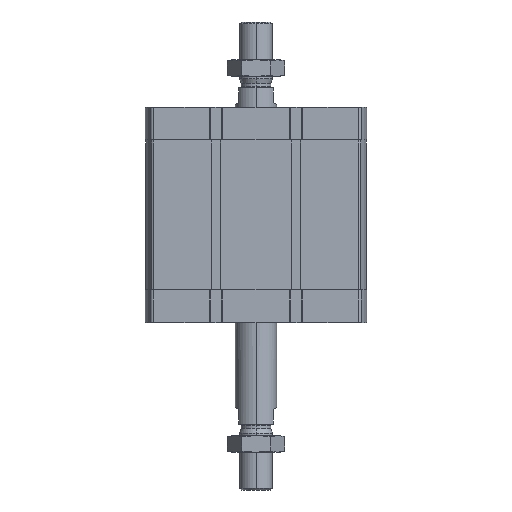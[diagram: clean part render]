
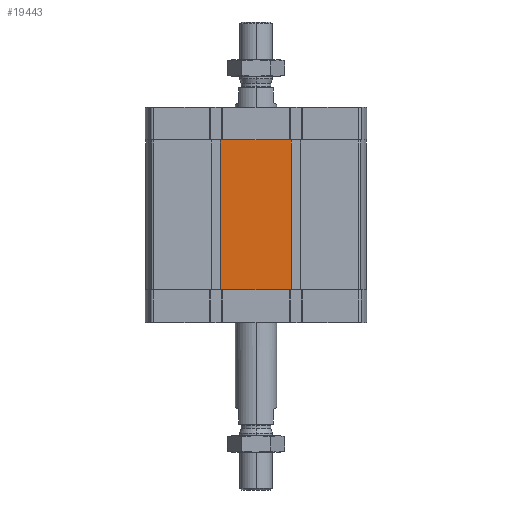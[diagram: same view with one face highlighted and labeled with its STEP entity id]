
A CAD part, left-side view. The second image highlights one B-rep face of the part: STEP entity #19443.
In plain terms, the highlighted planar face has unit normal (-1, 0, 0).
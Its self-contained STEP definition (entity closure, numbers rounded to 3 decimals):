
#475 = LINE ( 'NONE', #4931, #2580 ) ;
#1255 = EDGE_CURVE ( 'NONE', #11053, #18891, #9335, .T. ) ;
#1530 = FACE_OUTER_BOUND ( 'NONE', #14985, .T. ) ;
#1689 = CARTESIAN_POINT ( 'NONE',  ( -67., -20.687, -111. ) ) ;
#2101 = CARTESIAN_POINT ( 'NONE',  ( -67., 67., -20. ) ) ;
#2276 = VERTEX_POINT ( 'NONE', #5828 ) ;
#2580 = VECTOR ( 'NONE', #17039, 1000. ) ;
#2638 = EDGE_CURVE ( 'NONE', #15132, #2276, #6809, .T. ) ;
#3329 = VECTOR ( 'NONE', #16542, 1000. ) ;
#3726 = CARTESIAN_POINT ( 'NONE',  ( -67., -21.3, -111. ) ) ;
#3898 = CARTESIAN_POINT ( 'NONE',  ( -67., 67., -20. ) ) ;
#4482 = EDGE_CURVE ( 'NONE', #12174, #11053, #15923, .T. ) ;
#4587 = DIRECTION ( 'NONE',  ( 0., 0., 1. ) ) ;
#4931 = CARTESIAN_POINT ( 'NONE',  ( -67., 67., -111. ) ) ;
#4980 = DIRECTION ( 'NONE',  ( 0., -1., 0. ) ) ;
#5127 = CARTESIAN_POINT ( 'NONE',  ( -67., 21.3, -20. ) ) ;
#5157 = EDGE_CURVE ( 'NONE', #18891, #6704, #18133, .T. ) ;
#5431 = DIRECTION ( 'NONE',  ( 0., -1., 0. ) ) ;
#5828 = CARTESIAN_POINT ( 'NONE',  ( -67., -21.3, -20. ) ) ;
#6089 = CARTESIAN_POINT ( 'NONE',  ( -67., 67., -111. ) ) ;
#6608 = VERTEX_POINT ( 'NONE', #14354 ) ;
#6704 = VERTEX_POINT ( 'NONE', #17427 ) ;
#6716 = CARTESIAN_POINT ( 'NONE',  ( -67., -21.3, -111. ) ) ;
#6809 = LINE ( 'NONE', #3726, #11897 ) ;
#6833 = CARTESIAN_POINT ( 'NONE',  ( -67., 21.3, -111. ) ) ;
#7312 = ORIENTED_EDGE ( 'NONE', *, *, #2638, .T. ) ;
#7331 = EDGE_CURVE ( 'NONE', #6704, #2276, #17279, .T. ) ;
#7414 = CARTESIAN_POINT ( 'NONE',  ( -67., 20.687, -20. ) ) ;
#7583 = PLANE ( 'NONE',  #17049 ) ;
#8231 = CARTESIAN_POINT ( 'NONE',  ( -67., 21.3, -111. ) ) ;
#8861 = CARTESIAN_POINT ( 'NONE',  ( -67., 67., -111. ) ) ;
#9335 = LINE ( 'NONE', #2101, #15867 ) ;
#9754 = DIRECTION ( 'NONE',  ( 0., -1., 0. ) ) ;
#10521 = ORIENTED_EDGE ( 'NONE', *, *, #1255, .F. ) ;
#10666 = ORIENTED_EDGE ( 'NONE', *, *, #18109, .T. ) ;
#11053 = VERTEX_POINT ( 'NONE', #5127 ) ;
#11315 = VECTOR ( 'NONE', #11822, 1000. ) ;
#11608 = EDGE_CURVE ( 'NONE', #6608, #12037, #14448, .T. ) ;
#11636 = LINE ( 'NONE', #8861, #11315 ) ;
#11822 = DIRECTION ( 'NONE',  ( 0., -1., 0. ) ) ;
#11897 = VECTOR ( 'NONE', #12535, 1000. ) ;
#12037 = VERTEX_POINT ( 'NONE', #1689 ) ;
#12174 = VERTEX_POINT ( 'NONE', #8231 ) ;
#12535 = DIRECTION ( 'NONE',  ( 0., 0., 1. ) ) ;
#12575 = VECTOR ( 'NONE', #9754, 1000. ) ;
#12580 = EDGE_CURVE ( 'NONE', #12037, #15132, #475, .T. ) ;
#12965 = CARTESIAN_POINT ( 'NONE',  ( -67., 21.3, -111. ) ) ;
#13828 = ORIENTED_EDGE ( 'NONE', *, *, #7331, .F. ) ;
#14341 = DIRECTION ( 'NONE',  ( 0., 0., 1. ) ) ;
#14354 = CARTESIAN_POINT ( 'NONE',  ( -67., 20.687, -111. ) ) ;
#14448 = LINE ( 'NONE', #12965, #15629 ) ;
#14985 = EDGE_LOOP ( 'NONE', ( #15648, #10666, #17491, #19289, #7312, #13828, #17992, #10521 ) ) ;
#15132 = VERTEX_POINT ( 'NONE', #6716 ) ;
#15629 = VECTOR ( 'NONE', #5431, 1000. ) ;
#15648 = ORIENTED_EDGE ( 'NONE', *, *, #4482, .F. ) ;
#15867 = VECTOR ( 'NONE', #4980, 1000. ) ;
#15923 = LINE ( 'NONE', #6833, #19446 ) ;
#16542 = DIRECTION ( 'NONE',  ( 0., -1., 0. ) ) ;
#17039 = DIRECTION ( 'NONE',  ( 0., -1., 0. ) ) ;
#17049 = AXIS2_PLACEMENT_3D ( 'NONE', #6089, #18179, #4587 ) ;
#17279 = LINE ( 'NONE', #3898, #12575 ) ;
#17427 = CARTESIAN_POINT ( 'NONE',  ( -67., -20.687, -20. ) ) ;
#17491 = ORIENTED_EDGE ( 'NONE', *, *, #11608, .T. ) ;
#17992 = ORIENTED_EDGE ( 'NONE', *, *, #5157, .F. ) ;
#18109 = EDGE_CURVE ( 'NONE', #12174, #6608, #11636, .T. ) ;
#18133 = LINE ( 'NONE', #19604, #3329 ) ;
#18179 = DIRECTION ( 'NONE',  ( -1., 0., 0. ) ) ;
#18891 = VERTEX_POINT ( 'NONE', #7414 ) ;
#19289 = ORIENTED_EDGE ( 'NONE', *, *, #12580, .T. ) ;
#19443 = ADVANCED_FACE ( 'NONE', ( #1530 ), #7583, .T. ) ;
#19446 = VECTOR ( 'NONE', #14341, 1000. ) ;
#19604 = CARTESIAN_POINT ( 'NONE',  ( -67., 21.3, -20. ) ) ;
